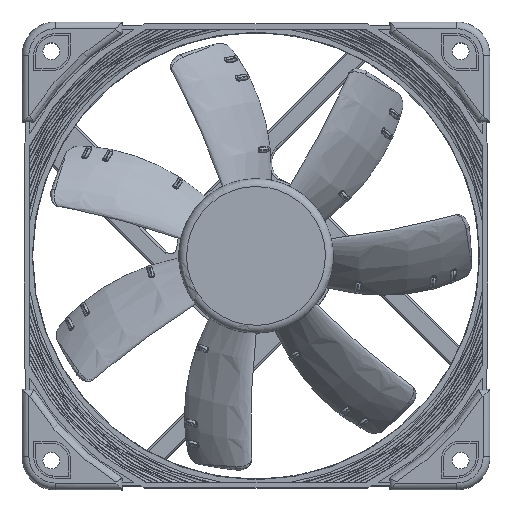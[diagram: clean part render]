
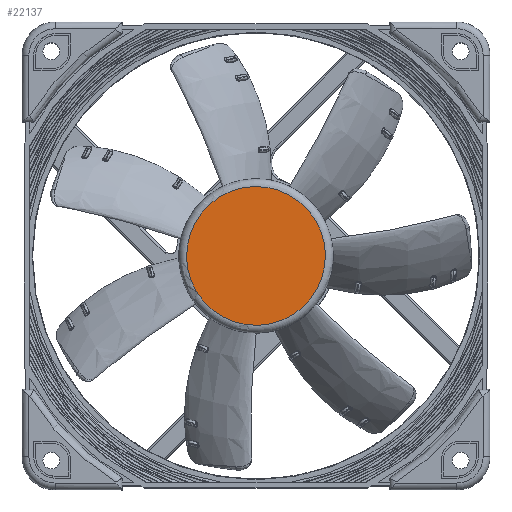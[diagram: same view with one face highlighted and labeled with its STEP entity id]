
A CAD part, top view. The second image highlights one B-rep face of the part: STEP entity #22137.
In plain terms, the highlighted planar face has unit normal (0, 0, 1) as drawn and (-1, 0, 0) by its records, which use the part's own axes.
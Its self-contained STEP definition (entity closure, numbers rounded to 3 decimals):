
#8283=ORIENTED_EDGE('',*,*,#13644,.T.);
#13644=EDGE_CURVE('',#16578,#16578,#18260,.F.);
#16578=VERTEX_POINT('',#36406);
#18260=CIRCLE('',#25065,17.8);
#19026=EDGE_LOOP('',(#8283));
#20414=FACE_BOUND('',#19026,.T.);
#21402=PLANE('',#25064);
#22137=ADVANCED_FACE('',(#20414),#21402,.F.);
#25064=AXIS2_PLACEMENT_3D('',#36404,#28706,#28707);
#25065=AXIS2_PLACEMENT_3D('',#36405,#28708,#28709);
#28706=DIRECTION('',(1.,0.,0.));
#28707=DIRECTION('',(0.,0.,-1.));
#28708=DIRECTION('',(1.,0.,0.));
#28709=DIRECTION('',(0.,0.,-1.));
#36404=CARTESIAN_POINT('',(-19.,-18.014,18.014));
#36405=CARTESIAN_POINT('',(-19.,0.,0.));
#36406=CARTESIAN_POINT('',(-19.,0.,-17.8));
